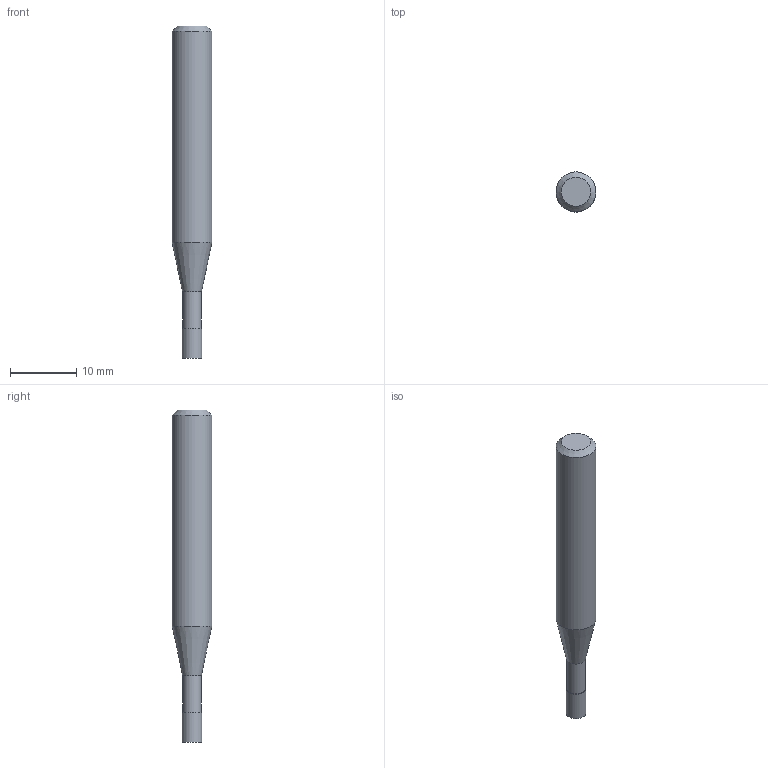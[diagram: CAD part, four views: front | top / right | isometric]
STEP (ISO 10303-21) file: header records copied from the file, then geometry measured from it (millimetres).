
FILE_DESCRIPTION((''),'2;1');
FILE_NAME('C:\Users\nsx150\AppData\Local\Temp\Mastercam 2021\17T8Q8S9EB\TEMP.step','2021-04-21T14:28:20',(''),(''),'STEP Write','Mastercam 2021 ... CNC Software, Inc.','');
FILE_SCHEMA(('AUTOMOTIVE_DESIGN'));
Length unit declared in the file: millimetre
Products named in the file (1): None
Bounding box: 6 x 6 x 50 mm (x, y, z)
Volume: 1101.6 mm3; surface area: 850.4 mm2
Topology: 2 solids, 2 shells, 9 faces, 12 edges, 7 vertices
Faces by surface type: plane 4, cylinder 3, cone 2
Full cylindrical faces by diameter (mm): 2.85 x1, 3 x1, 6 x1
Entity records: 211 total; most frequent: DIRECTION 36, CARTESIAN_POINT 25, AXIS2_PLACEMENT_3D 18, ORIENTED_EDGE 14, EDGE_LOOP 14, STYLED_ITEM 12, ADVANCED_FACE 9, FACE_BOUND 8
